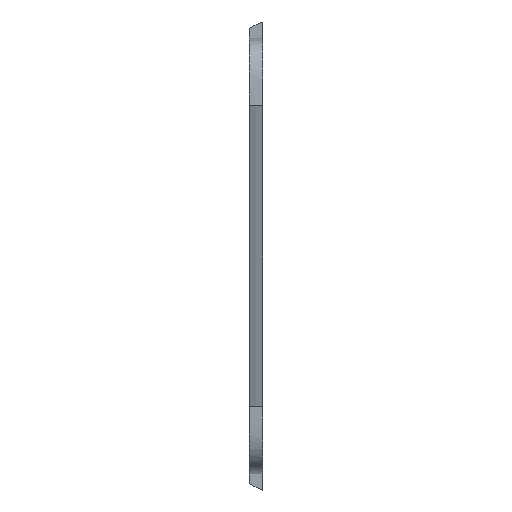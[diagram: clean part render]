
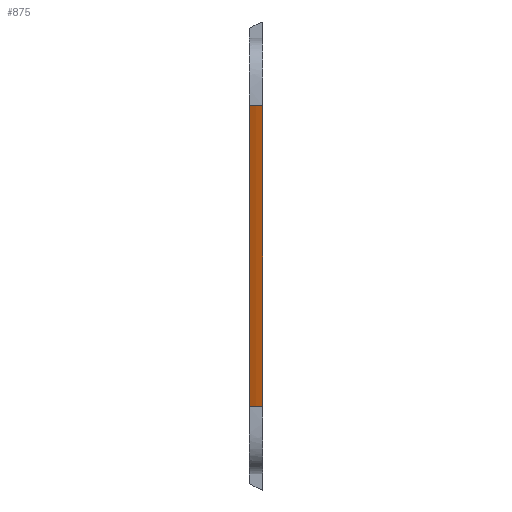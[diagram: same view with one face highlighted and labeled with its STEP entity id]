
A CAD part, front view. The second image highlights one B-rep face of the part: STEP entity #875.
In plain terms, the highlighted free-form (B-spline) face has degree [3, 1] with [7, 2] control points.
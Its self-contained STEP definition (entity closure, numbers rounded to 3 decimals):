
#101=B_SPLINE_SURFACE_WITH_KNOTS('',3,1,((#1995,#1996),(#1997,#1998),(#1999,
#2000),(#2001,#2002),(#2003,#2004),(#2005,#2006),(#2007,#2008)),
 .UNSPECIFIED.,.F.,.F.,.F.,(4,3,4),(2,2),(0.237,0.327,
0.425),(-7.75,7.75),.UNSPECIFIED.);
#137=FACE_OUTER_BOUND('',#198,.T.);
#198=EDGE_LOOP('',(#719,#720,#721,#722));
#256=LINE('',#1876,#308);
#266=LINE('',#2010,#318);
#308=VECTOR('',#1122,10.);
#318=VECTOR('',#1138,10.);
#332=B_SPLINE_CURVE_WITH_KNOTS('',3,(#1216,#1217,#1218,#1219,#1220,#1221,
#1222),.UNSPECIFIED.,.F.,.F.,(4,3,4),(-0.4,-0.21,
0.),.UNSPECIFIED.);
#352=B_SPLINE_CURVE_WITH_KNOTS('',3,(#2011,#2012,#2013,#2014,#2015,#2016,
#2017),.UNSPECIFIED.,.F.,.F.,(4,3,4),(-0.396,-0.189,
0.),.UNSPECIFIED.);
#365=VERTEX_POINT('',#1213);
#366=VERTEX_POINT('',#1215);
#415=VERTEX_POINT('',#1875);
#428=VERTEX_POINT('',#2009);
#449=EDGE_CURVE('',#366,#365,#332,.T.);
#521=EDGE_CURVE('',#415,#366,#256,.T.);
#537=EDGE_CURVE('',#428,#365,#266,.T.);
#538=EDGE_CURVE('',#415,#428,#352,.F.);
#719=ORIENTED_EDGE('',*,*,#537,.F.);
#720=ORIENTED_EDGE('',*,*,#538,.F.);
#721=ORIENTED_EDGE('',*,*,#521,.T.);
#722=ORIENTED_EDGE('',*,*,#449,.T.);
#875=ADVANCED_FACE('',(#137),#101,.T.);
#1122=DIRECTION('',(0.,0.,1.));
#1138=DIRECTION('',(0.,0.,1.));
#1213=CARTESIAN_POINT('',(151.4,-85.247,16.3));
#1215=CARTESIAN_POINT('',(155.,-86.936,16.3));
#1216=CARTESIAN_POINT('Ctrl Pts',(155.,-86.936,16.3));
#1217=CARTESIAN_POINT('Ctrl Pts',(154.388,-86.715,16.3));
#1218=CARTESIAN_POINT('Ctrl Pts',(153.79,-86.465,16.3));
#1219=CARTESIAN_POINT('Ctrl Pts',(153.214,-86.195,16.3));
#1220=CARTESIAN_POINT('Ctrl Pts',(152.583,-85.898,16.3));
#1221=CARTESIAN_POINT('Ctrl Pts',(151.979,-85.578,16.3));
#1222=CARTESIAN_POINT('Ctrl Pts',(151.4,-85.247,16.3));
#1875=CARTESIAN_POINT('',(155.,-86.936,-63.3));
#1876=CARTESIAN_POINT('',(155.,-86.936,-61.));
#1995=CARTESIAN_POINT('Ctrl Pts',(155.,-86.936,91.5));
#1996=CARTESIAN_POINT('Ctrl Pts',(155.,-86.936,-63.5));
#1997=CARTESIAN_POINT('Ctrl Pts',(154.388,-86.715,91.5));
#1998=CARTESIAN_POINT('Ctrl Pts',(154.388,-86.715,-63.5));
#1999=CARTESIAN_POINT('Ctrl Pts',(153.79,-86.465,91.5));
#2000=CARTESIAN_POINT('Ctrl Pts',(153.79,-86.465,-63.5));
#2001=CARTESIAN_POINT('Ctrl Pts',(153.214,-86.195,91.5));
#2002=CARTESIAN_POINT('Ctrl Pts',(153.214,-86.195,-63.5));
#2003=CARTESIAN_POINT('Ctrl Pts',(152.583,-85.898,91.5));
#2004=CARTESIAN_POINT('Ctrl Pts',(152.583,-85.898,-63.5));
#2005=CARTESIAN_POINT('Ctrl Pts',(151.979,-85.578,91.5));
#2006=CARTESIAN_POINT('Ctrl Pts',(151.979,-85.578,-63.5));
#2007=CARTESIAN_POINT('Ctrl Pts',(151.4,-85.247,91.5));
#2008=CARTESIAN_POINT('Ctrl Pts',(151.4,-85.247,-63.5));
#2009=CARTESIAN_POINT('',(151.4,-85.247,-63.3));
#2010=CARTESIAN_POINT('',(151.4,-85.247,-61.));
#2011=CARTESIAN_POINT('Ctrl Pts',(151.4,-85.247,-63.3));
#2012=CARTESIAN_POINT('Ctrl Pts',(151.979,-85.578,-63.3));
#2013=CARTESIAN_POINT('Ctrl Pts',(152.583,-85.898,-63.3));
#2014=CARTESIAN_POINT('Ctrl Pts',(153.214,-86.195,-63.3));
#2015=CARTESIAN_POINT('Ctrl Pts',(153.79,-86.465,-63.3));
#2016=CARTESIAN_POINT('Ctrl Pts',(154.388,-86.715,-63.3));
#2017=CARTESIAN_POINT('Ctrl Pts',(155.,-86.936,-63.3));
